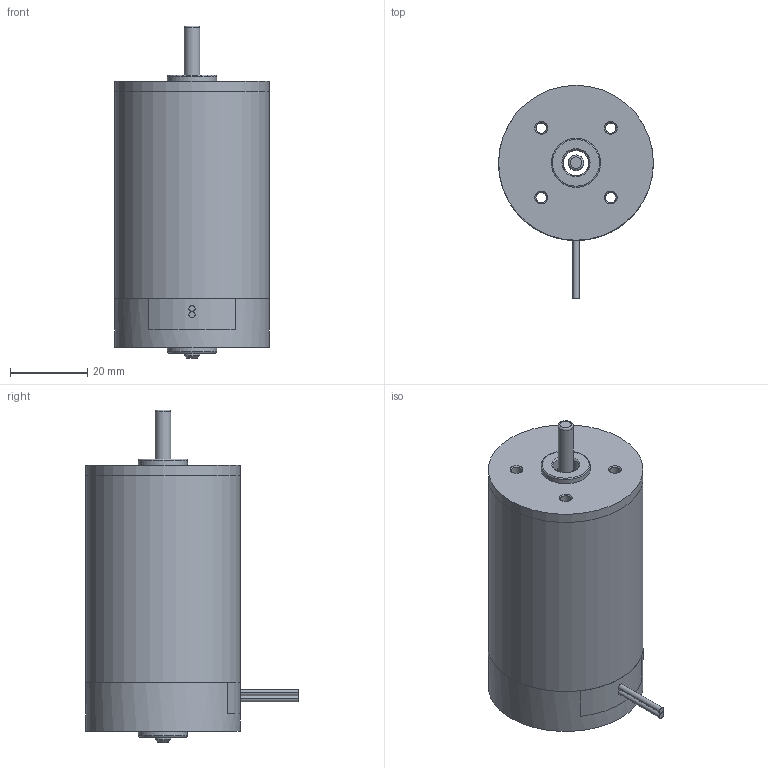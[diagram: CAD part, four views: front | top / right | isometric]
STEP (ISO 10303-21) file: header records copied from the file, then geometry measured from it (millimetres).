
FILE_DESCRIPTION(/* description */ (''),/* implementation_level */ '2;1');
FILE_NAME(/* name */ 'Z:\새 폴더\Compact Type RM4_3D\RM45ㅁBL.stp',/* time_stamp */ '2022-04-05T16:20:07+09:00',/* author */ ('umbro'),/* organization */ (''),/* preprocessor_version */ 'ST-DEVELOPER v17',/* originating_system */ 'Autodesk Inventor 2019',/* authorisation */ '');
FILE_SCHEMA (('AUTOMOTIVE_DESIGN { 1 0 10303 214 3 1 1 }'));
Length unit declared in the file: millimetre
Products named in the file (8): RM45ㅁBL; RM4TYPE_FRONT_HOUSING_; RM4TYPE_PIPE_HOUSING_pi40XL53.5; RM45TYPE_SHAFT; AS 1427 Z - 미터 M3.5 x 5; REAR_HOUSING__ASS'Y_LEAD; RM4TYPE_BRUSH_BRAKET_LEAD; RM4TYPE_REAR_HOUSING
Assembly tree (7 placements, depth 2):
  RM45ㅁBL
    RM4TYPE_FRONT_HOUSING_
    RM4TYPE_PIPE_HOUSING_pi40XL53.5
    RM45TYPE_SHAFT
    AS 1427 Z - 미터 M3.5 x 5  x2
  REAR_HOUSING__ASS'Y_LEAD
    RM4TYPE_BRUSH_BRAKET_LEAD
    RM4TYPE_REAR_HOUSING
Bounding box: 40 x 55 x 85.74 mm (x, y, z)
Volume: 23652.8 mm3; surface area: 23371.4 mm2
Topology: 9 solids, 9 shells, 152 faces, 379 edges, 248 vertices
Faces by surface type: plane 65, cone 44, cylinder 32, torus 11
Full cylindrical faces by diameter (mm): 2.7 x4, 2.8 x4, 3.132 x2, 3.5 x2, 3.7 x2, 3.969 x1, 4 x1, 6.1 x2, 6.5 x1, 6.65 x1, 12.7 x2, 36.5 x1, 40 x3
Entity records: 3776 total; most frequent: CARTESIAN_POINT 784, DIRECTION 607, ORIENTED_EDGE 528, EDGE_CURVE 264, AXIS2_PLACEMENT_3D 252, VERTEX_POINT 173, EDGE_LOOP 141, CIRCLE 117
